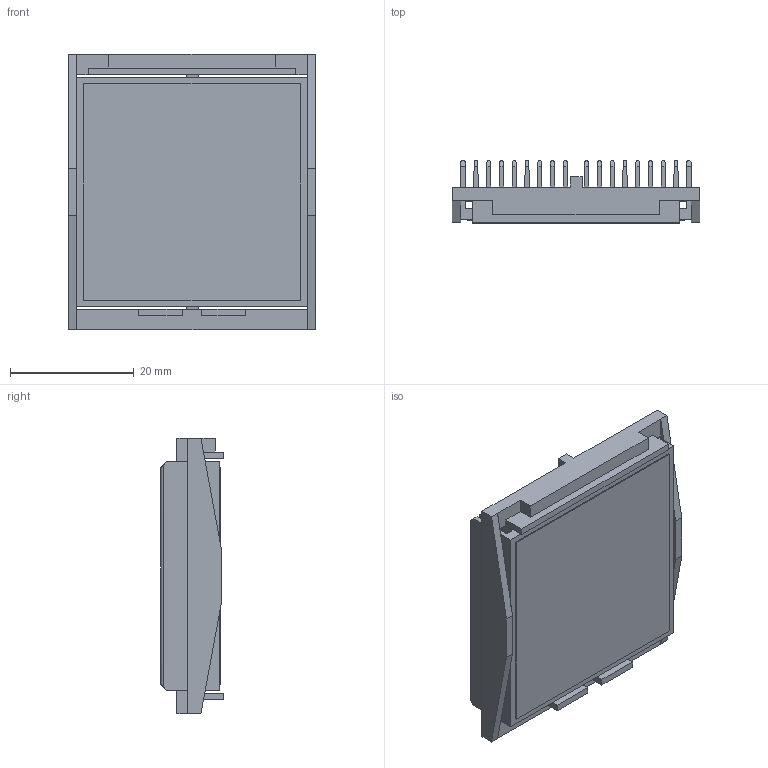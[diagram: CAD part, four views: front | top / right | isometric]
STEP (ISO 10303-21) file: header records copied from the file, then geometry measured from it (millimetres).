
FILE_DESCRIPTION (( 'STEP AP214' ), '1' );
FILE_NAME ('INL37.5001-10-1.7O.STEP', '2023-03-01T15:45:18', ( '' ), ( '' ), 'SwSTEP 2.0', 'SolidWorks 2020', '' );
FILE_SCHEMA (( 'AUTOMOTIVE_DESIGN' ));
Length unit declared in the file: millimetre
Products named in the file (1): INL37.5001-10-1.7O
Bounding box: 40.1 x 10.1 x 44.6 mm (x, y, z)
Volume: 7777.5 mm3; surface area: 18137.6 mm2
Topology: 3 solids, 3 shells, 198 faces, 578 edges, 384 vertices
Faces by surface type: plane 146, cylinder 52
Entity records: 8712 total; most frequent: CARTESIAN_POINT 1269, ORIENTED_EDGE 1156, DIRECTION 1008, EDGE_CURVE 578, VECTOR 474, LINE 474, VERTEX_POINT 384, AXIS2_PLACEMENT_3D 267
